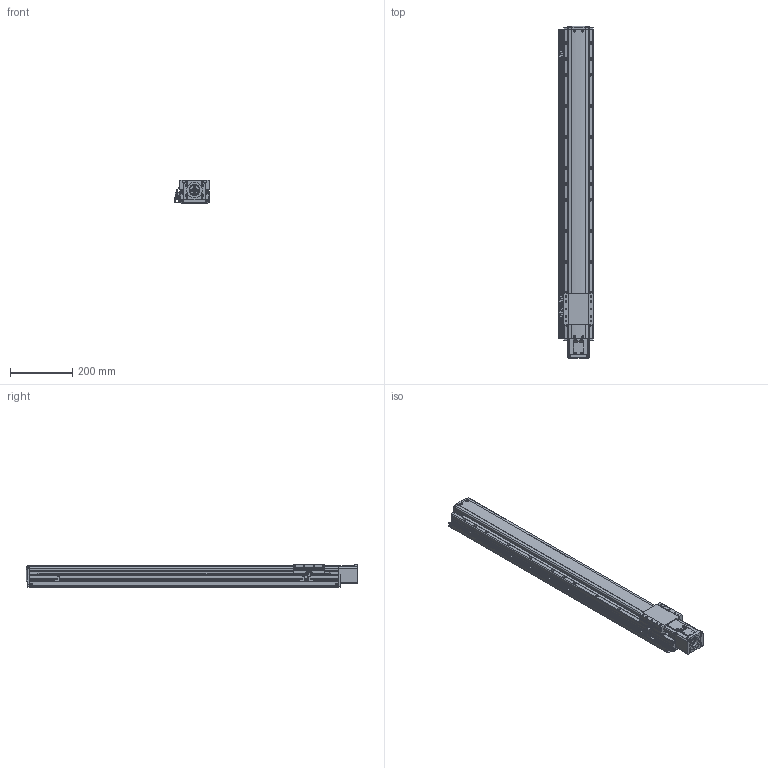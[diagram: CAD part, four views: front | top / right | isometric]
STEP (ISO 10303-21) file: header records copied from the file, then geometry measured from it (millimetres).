
FILE_DESCRIPTION(('STEP AP214'),'1');
FILE_NAME('Z:/Web/3D/PSA95/STP/PSA95-800 (3D)/PSA95ㅁㅁ-800S+3SL.stp','2014-07-03T00:51:23',(' '),(' '),'Spatial InterOp 3D',' ',' ');
FILE_SCHEMA(('automotive_design'));
Length unit declared in the file: millimetre
Products named in the file (53): BASE; RRCV; 스크루 : Round - M4.0 x 10.0; 너트 : Square - M10.0 x 220.7419; RR1500; FRCV-090; 스크루 : Round - M4.0 x 6.0; SLBL-PA90; SSFX-SAN65; CPLCV-SAN65; 스크루 : Round - M3.0 x 6.0; MTHZ-PA70/90-S60A-3; 스크루 : Socket - M4.0 x 20.0; NONE; EE-SX674; SBK-SX674-352; M3.0 x 6.0; SRL-16x17-380L; SGD-PA95; 스크루 : Round - M3.0 x 8.0
Bounding box: 111 x 1062.5 x 74 mm (x, y, z)
Volume: 5664608.6 mm3; surface area: 706184.6 mm2
Topology: 53 solids, 87 shells, 3616 faces, 9300 edges, 5896 vertices
Faces by surface type: plane 1819, cylinder 1118, cone 423, torus 158, sphere 66, bspline 32
Entity records: 142618 total; most frequent: CARTESIAN_POINT 23066, DIRECTION 19444, ORIENTED_EDGE 18280, EDGE_CURVE 9140, AXIS2_PLACEMENT_3D 6916, VERTEX_POINT 5896, LINE 5612, VECTOR 5612
